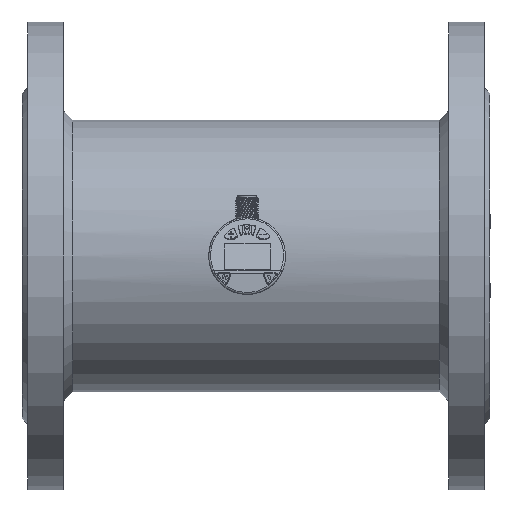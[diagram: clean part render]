
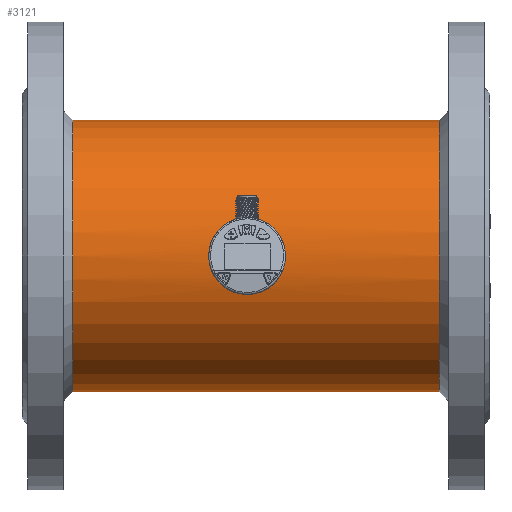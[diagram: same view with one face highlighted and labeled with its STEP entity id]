
A CAD part, left-side view. The second image highlights one B-rep face of the part: STEP entity #3121.
In plain terms, the highlighted cylindrical face has radius 72.5 mm (diameter 145 mm), a full revolution.
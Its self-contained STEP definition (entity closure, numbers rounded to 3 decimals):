
#2019=LINE('',#11476,#2393);
#2020=LINE('',#11489,#2394);
#2393=VECTOR('',#9473,1.);
#2394=VECTOR('',#9474,1.);
#2769=B_SPLINE_CURVE_WITH_KNOTS('',3,(#11494,#11495,#11496,#11497,#11498,
#11499,#11500,#11501,#11502,#11503),.UNSPECIFIED.,.F.,.F.,(4,2,2,2,4),(0.,
0.25,0.5,0.75,1.),.UNSPECIFIED.);
#2770=B_SPLINE_CURVE_WITH_KNOTS('',3,(#11504,#11505,#11506,#11507,#11508,
#11509,#11510,#11511,#11512,#11513),.UNSPECIFIED.,.F.,.F.,(4,2,2,2,4),(0.,
0.25,0.5,0.75,1.),.UNSPECIFIED.);
#2960=CYLINDRICAL_SURFACE('',#8597,72.5);
#3121=ADVANCED_FACE('',(#3754,#3755,#3756),#2960,.T.);
#3754=FACE_BOUND('',#4035,.T.);
#3755=FACE_BOUND('',#4036,.T.);
#3756=FACE_BOUND('',#4037,.T.);
#4035=EDGE_LOOP('',(#4649,#4650,#4651,#4652));
#4036=EDGE_LOOP('',(#4653));
#4037=EDGE_LOOP('',(#4654));
#4649=ORIENTED_EDGE('',*,*,#7206,.F.);
#4650=ORIENTED_EDGE('',*,*,#7210,.T.);
#4651=ORIENTED_EDGE('',*,*,#7208,.F.);
#4652=ORIENTED_EDGE('',*,*,#7211,.T.);
#4653=ORIENTED_EDGE('',*,*,#7212,.T.);
#4654=ORIENTED_EDGE('',*,*,#7213,.T.);
#6557=VERTEX_POINT('',#11474);
#6558=VERTEX_POINT('',#11475);
#6559=VERTEX_POINT('',#11477);
#6560=VERTEX_POINT('',#11488);
#6562=VERTEX_POINT('',#11515);
#6563=VERTEX_POINT('',#11517);
#7206=EDGE_CURVE('',#6558,#6559,#2019,.T.);
#7208=EDGE_CURVE('',#6560,#6557,#2020,.T.);
#7210=EDGE_CURVE('',#6558,#6557,#2769,.T.);
#7211=EDGE_CURVE('',#6560,#6559,#2770,.T.);
#7212=EDGE_CURVE('',#6562,#6562,#8167,.T.);
#7213=EDGE_CURVE('',#6563,#6563,#8168,.T.);
#8167=CIRCLE('',#8595,72.5);
#8168=CIRCLE('',#8596,72.5);
#8595=AXIS2_PLACEMENT_3D('',#11514,#9481,#9482);
#8596=AXIS2_PLACEMENT_3D('',#11516,#9483,#9484);
#8597=AXIS2_PLACEMENT_3D('',#11518,#9485,#9486);
#9473=DIRECTION('',(0.,-1.,0.));
#9474=DIRECTION('',(0.,1.,0.));
#9481=DIRECTION('',(0.,-1.,0.));
#9482=DIRECTION('',(-1.,0.,0.));
#9483=DIRECTION('',(0.,1.,0.));
#9484=DIRECTION('',(1.,0.,0.));
#9485=DIRECTION('',(0.,-1.,0.));
#9486=DIRECTION('',(1.,0.,0.));
#11474=CARTESIAN_POINT('',(-70.5,-76.609,16.912));
#11475=CARTESIAN_POINT('',(-70.5,-76.606,-16.912));
#11476=CARTESIAN_POINT('',(-70.5,-1000.,-16.912));
#11477=CARTESIAN_POINT('',(-70.5,-91.077,-16.912));
#11488=CARTESIAN_POINT('',(-70.5,-91.077,16.912));
#11489=CARTESIAN_POINT('',(-70.5,-1000.,16.912));
#11494=CARTESIAN_POINT('',(-70.5,-76.606,-16.912));
#11495=CARTESIAN_POINT('',(-70.903,-73.651,-15.233));
#11496=CARTESIAN_POINT('',(-71.442,-71.318,-12.696));
#11497=CARTESIAN_POINT('',(-72.246,-68.13,-6.761));
#11498=CARTESIAN_POINT('',(-72.5,-67.3,-3.36));
#11499=CARTESIAN_POINT('',(-72.5,-67.306,3.38));
#11500=CARTESIAN_POINT('',(-72.247,-68.129,6.756));
#11501=CARTESIAN_POINT('',(-71.443,-71.312,12.693));
#11502=CARTESIAN_POINT('',(-70.903,-73.653,15.233));
#11503=CARTESIAN_POINT('',(-70.5,-76.609,16.912));
#11504=CARTESIAN_POINT('',(-70.5,-91.077,16.912));
#11505=CARTESIAN_POINT('',(-70.901,-94.036,15.239));
#11506=CARTESIAN_POINT('',(-71.442,-96.367,12.699));
#11507=CARTESIAN_POINT('',(-72.246,-99.554,6.759));
#11508=CARTESIAN_POINT('',(-72.5,-100.381,3.36));
#11509=CARTESIAN_POINT('',(-72.5,-100.381,-3.381));
#11510=CARTESIAN_POINT('',(-72.247,-99.555,-6.756));
#11511=CARTESIAN_POINT('',(-71.443,-96.368,-12.695));
#11512=CARTESIAN_POINT('',(-70.902,-94.032,-15.236));
#11513=CARTESIAN_POINT('',(-70.5,-91.077,-16.912));
#11514=CARTESIAN_POINT('',(0.,9.4,0.));
#11515=CARTESIAN_POINT('',(-72.5,9.4,0.));
#11516=CARTESIAN_POINT('',(0.,-186.6,0.));
#11517=CARTESIAN_POINT('',(72.5,-186.6,0.));
#11518=CARTESIAN_POINT('',(0.,-1000.,0.));
